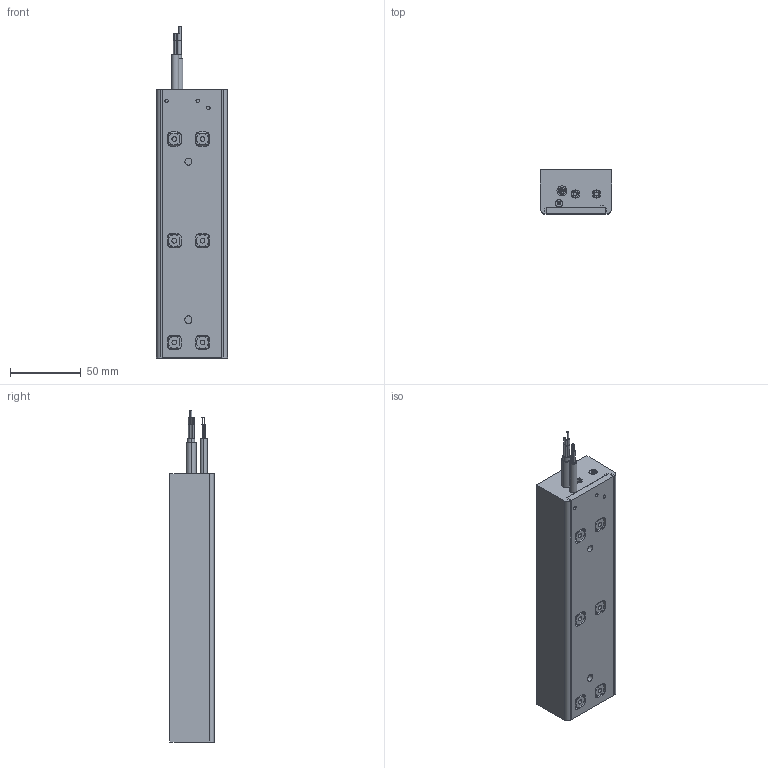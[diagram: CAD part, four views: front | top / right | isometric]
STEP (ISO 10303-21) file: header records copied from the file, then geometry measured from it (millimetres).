
FILE_DESCRIPTION (( 'STEP AP203' ), '1' );
FILE_NAME ('IC50-9 3D.STEP', '2020-10-24T07:46:12', ( '' ), ( '' ), 'SwSTEP 2.0', 'SolidWorks 2018', '' );
FILE_SCHEMA (( 'CONFIG_CONTROL_DESIGN' ));
Length unit declared in the file: millimetre
Products named in the file (7): IC50-9 3D; IC50-9 housing; IC50-9 resin; power cable IC50 3D; M3 nut hall module for 3D CU; sensor cable 3D; IC-50 dovetail rounded
Assembly tree (9 placements, depth 2):
  IC50-9 3D
    IC50-9 housing
    IC50-9 resin
    IC-50 dovetail rounded  x3
    M3 nut hall module for 3D CU  x2
    power cable IC50 3D
    sensor cable 3D
Bounding box: 50.93 x 31.28 x 235 mm (x, y, z)
Volume: 300670 mm3; surface area: 61448.7 mm2
Topology: 10 solids, 10 shells, 503 faces, 1332 edges, 856 vertices
Faces by surface type: plane 236, cylinder 225, torus 26, sphere 12, bspline 4
Entity records: 12585 total; most frequent: CARTESIAN_POINT 2691, DIRECTION 1920, ORIENTED_EDGE 1896, EDGE_CURVE 948, AXIS2_PLACEMENT_3D 697, VERTEX_POINT 620, LINE 526, VECTOR 526
